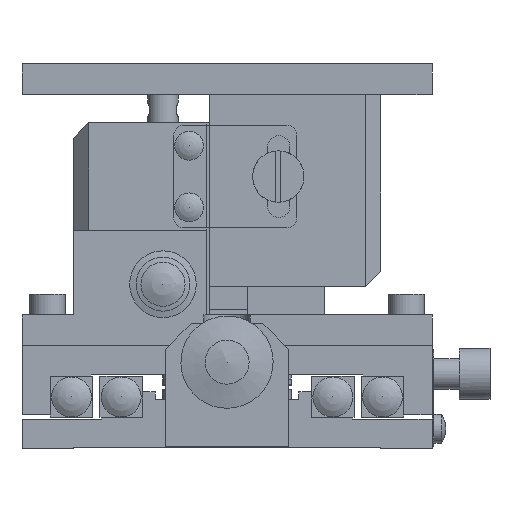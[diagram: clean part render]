
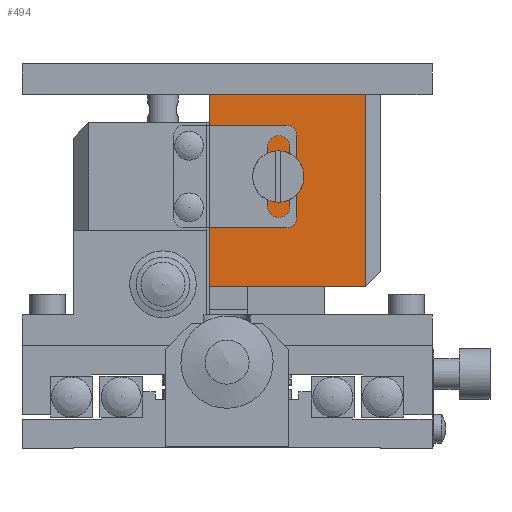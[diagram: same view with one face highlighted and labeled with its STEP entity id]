
A CAD part, front view. The second image highlights one B-rep face of the part: STEP entity #494.
In plain terms, the highlighted planar face has unit normal (0, -1, 0).
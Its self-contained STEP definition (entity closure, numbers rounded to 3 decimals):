
#494 = ADVANCED_FACE( '', ( #1123, #1124 ), #1125, .T. );
#1123 = FACE_BOUND( '', #2182, .T. );
#1124 = FACE_OUTER_BOUND( '', #2183, .T. );
#1125 = PLANE( '', #2184 );
#2182 = EDGE_LOOP( '', ( #3825 ) );
#2183 = EDGE_LOOP( '', ( #3826, #3827, #3828, #3829 ) );
#2184 = AXIS2_PLACEMENT_3D( '', #3830, #3831, #3832 );
#3825 = ORIENTED_EDGE( '', *, *, #6014, .F. );
#3826 = ORIENTED_EDGE( '', *, *, #5965, .T. );
#3827 = ORIENTED_EDGE( '', *, *, #5978, .T. );
#3828 = ORIENTED_EDGE( '', *, *, #5986, .F. );
#3829 = ORIENTED_EDGE( '', *, *, #6028, .T. );
#3830 = CARTESIAN_POINT( '', ( -3.5, -45., 50.25 ) );
#3831 = DIRECTION( '', ( 0., -1., 0. ) );
#3832 = DIRECTION( '', ( -1., 0., 0. ) );
#5965 = EDGE_CURVE( '', #6963, #6961, #6964, .T. );
#5978 = EDGE_CURVE( '', #6961, #6987, #6988, .T. );
#5986 = EDGE_CURVE( '', #6999, #6987, #7001, .T. );
#6014 = EDGE_CURVE( '', #7052, #7052, #7053, .T. );
#6028 = EDGE_CURVE( '', #6999, #6963, #7076, .T. );
#6961 = VERTEX_POINT( '', #8652 );
#6963 = VERTEX_POINT( '', #8655 );
#6964 = LINE( '', #8656, #8657 );
#6987 = VERTEX_POINT( '', #8692 );
#6988 = LINE( '', #8693, #8694 );
#6999 = VERTEX_POINT( '', #8711 );
#7001 = LINE( '', #8714, #8715 );
#7052 = VERTEX_POINT( '', #8779 );
#7053 = CIRCLE( '', #8780, 2. );
#7076 = LINE( '', #8897, #8898 );
#8652 = CARTESIAN_POINT( '', ( 27., -45., 31.5 ) );
#8655 = CARTESIAN_POINT( '', ( -3.5, -45., 31.5 ) );
#8656 = CARTESIAN_POINT( '', ( -3.5, -45., 31.5 ) );
#8657 = VECTOR( '', #10709, 1000. );
#8692 = CARTESIAN_POINT( '', ( 27., -45., 69. ) );
#8693 = CARTESIAN_POINT( '', ( 27., -45., 50.25 ) );
#8694 = VECTOR( '', #10722, 1000. );
#8711 = CARTESIAN_POINT( '', ( -3.5, -45., 69. ) );
#8714 = CARTESIAN_POINT( '', ( -3.5, -45., 69. ) );
#8715 = VECTOR( '', #10730, 1000. );
#8779 = CARTESIAN_POINT( '', ( 12., -45., 53. ) );
#8780 = AXIS2_PLACEMENT_3D( '', #10786, #10787, #10788 );
#8897 = CARTESIAN_POINT( '', ( -3.5, -45., 50.25 ) );
#8898 = VECTOR( '', #10806, 1000. );
#10709 = DIRECTION( '', ( 1., 0., 0. ) );
#10722 = DIRECTION( '', ( 0., 0., 1. ) );
#10730 = DIRECTION( '', ( 1., 0., 0. ) );
#10786 = CARTESIAN_POINT( '', ( 10., -45., 53. ) );
#10787 = DIRECTION( '', ( 0., -1., 0. ) );
#10788 = DIRECTION( '', ( 1., 0., 0. ) );
#10806 = DIRECTION( '', ( 0., 0., -1. ) );
